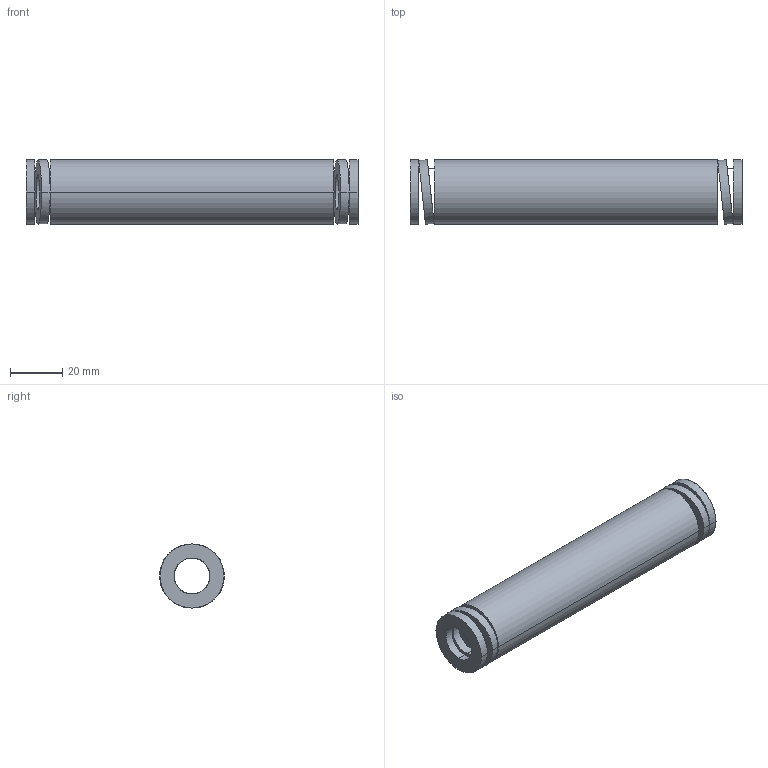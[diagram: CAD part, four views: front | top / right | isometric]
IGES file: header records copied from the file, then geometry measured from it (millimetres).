
Start section: START RECORD GO HERE.
Global section: file name: 392-B25-127.igs; native system: DASSAULT SYSTEMES CATIA V5 R20 - www.3ds.com; preprocessor: CATIA Version 5 Release 20 ; author: Utente; organization: NB04-ASUS; date: 20210813.094448; units: millimetre
Bounding box: 127 x 24.71 x 24.5 mm (x, y, z)
Surface area: 17829.9 mm2 (no closed solid volume)
Topology: 0 solids, 0 shells, 38 faces, 184 edges, 184 vertices
Faces by surface type: revolution 28, plane 10
